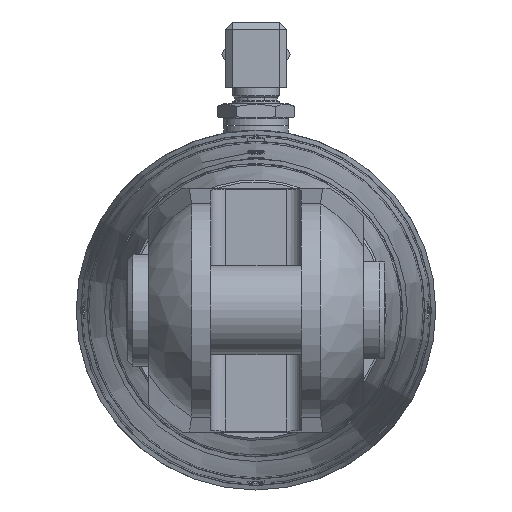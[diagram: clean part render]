
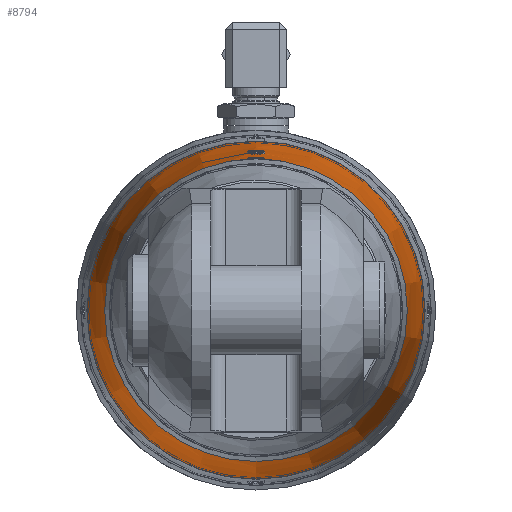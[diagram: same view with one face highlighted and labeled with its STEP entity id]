
A CAD part, left-side view. The second image highlights one B-rep face of the part: STEP entity #8794.
In plain terms, the highlighted conical face has half-angle 5 degrees and reference radius 45.508 mm.
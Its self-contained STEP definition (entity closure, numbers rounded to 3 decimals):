
#52=CONICAL_SURFACE('',#9416,45.508,0.087);
#711=LINE('',#13551,#1291);
#1291=VECTOR('',#10671,45.508);
#2276=FACE_BOUND('',#2953,.T.);
#2440=FACE_OUTER_BOUND('',#2952,.T.);
#2952=EDGE_LOOP('',(#6479,#6480,#6481,#6482,#6483,#6484));
#2953=EDGE_LOOP('',(#6485,#6486));
#3491=CIRCLE('',#9409,43.);
#3492=CIRCLE('',#9410,43.);
#3493=CIRCLE('',#9412,47.972);
#3494=CIRCLE('',#9413,47.972);
#3878=B_SPLINE_CURVE_WITH_KNOTS('',3,(#13236,#13237,#13238,#13239,#13240,
#13241,#13242,#13243,#13244,#13245,#13246,#13247,#13248,#13249,#13250,#13251,
#13252,#13253,#13254,#13255,#13256,#13257,#13258,#13259,#13260,#13261,#13262,
#13263),.UNSPECIFIED.,.F.,.F.,(4,2,2,2,2,2,2,2,2,2,2,2,2,4),(0.,0.094,
0.188,0.282,0.376,0.47,
0.564,0.658,0.752,0.847,
0.942,1.036,1.131,1.2),
 .UNSPECIFIED.);
#3879=B_SPLINE_CURVE_WITH_KNOTS('',3,(#13264,#13265,#13266,#13267,#13268,
#13269,#13270,#13271,#13272,#13273),.UNSPECIFIED.,.F.,.F.,(4,2,2,2,4),(1.2,
1.226,1.32,1.415,1.51),
 .UNSPECIFIED.);
#3999=VERTEX_POINT('',#13234);
#4000=VERTEX_POINT('',#13235);
#4074=VERTEX_POINT('',#13535);
#4075=VERTEX_POINT('',#13536);
#4076=VERTEX_POINT('',#13541);
#4077=VERTEX_POINT('',#13542);
#4872=EDGE_CURVE('',#3999,#4000,#3878,.T.);
#4873=EDGE_CURVE('',#4000,#3999,#3879,.T.);
#4990=EDGE_CURVE('',#4074,#4075,#3491,.T.);
#4992=EDGE_CURVE('',#4075,#4074,#3492,.T.);
#4993=EDGE_CURVE('',#4076,#4077,#3493,.T.);
#4994=EDGE_CURVE('',#4077,#4076,#3494,.T.);
#4998=EDGE_CURVE('',#4077,#4075,#711,.T.);
#6479=ORIENTED_EDGE('',*,*,#4993,.F.);
#6480=ORIENTED_EDGE('',*,*,#4994,.F.);
#6481=ORIENTED_EDGE('',*,*,#4998,.T.);
#6482=ORIENTED_EDGE('',*,*,#4990,.F.);
#6483=ORIENTED_EDGE('',*,*,#4992,.F.);
#6484=ORIENTED_EDGE('',*,*,#4998,.F.);
#6485=ORIENTED_EDGE('',*,*,#4872,.T.);
#6486=ORIENTED_EDGE('',*,*,#4873,.T.);
#8794=ADVANCED_FACE('',(#2440,#2276),#52,.T.);
#9409=AXIS2_PLACEMENT_3D('',#13537,#10653,#10654);
#9410=AXIS2_PLACEMENT_3D('',#13539,#10656,#10657);
#9412=AXIS2_PLACEMENT_3D('',#13543,#10660,#10661);
#9413=AXIS2_PLACEMENT_3D('',#13544,#10662,#10663);
#9416=AXIS2_PLACEMENT_3D('',#13550,#10669,#10670);
#10653=DIRECTION('center_axis',(-1.,0.,0.));
#10654=DIRECTION('ref_axis',(0.,0.,
-1.));
#10656=DIRECTION('center_axis',(-1.,0.,0.));
#10657=DIRECTION('ref_axis',(0.,0.,
-1.));
#10660=DIRECTION('center_axis',(1.,0.,0.));
#10661=DIRECTION('ref_axis',(0.,0.,
-1.));
#10662=DIRECTION('center_axis',(1.,0.,0.));
#10663=DIRECTION('ref_axis',(0.,0.,
-1.));
#10669=DIRECTION('center_axis',(1.,0.,0.));
#10670=DIRECTION('ref_axis',(0.,0.,
1.));
#10671=DIRECTION('',(-0.996,0.,0.087));
#13234=CARTESIAN_POINT('',(-494.512,-2.5,44.555));
#13235=CARTESIAN_POINT('',(-492.103,-0.711,44.83));
#13236=CARTESIAN_POINT('Ctrl Pts',(-494.512,-2.5,
44.555));
#13237=CARTESIAN_POINT('Ctrl Pts',(-494.825,-2.498,
44.527));
#13238=CARTESIAN_POINT('Ctrl Pts',(-495.158,-2.435,44.502));
#13239=CARTESIAN_POINT('Ctrl Pts',(-495.772,-2.178,
44.461));
#13240=CARTESIAN_POINT('Ctrl Pts',(-496.052,-1.985,
44.446));
#13241=CARTESIAN_POINT('Ctrl Pts',(-496.493,-1.541,
44.425));
#13242=CARTESIAN_POINT('Ctrl Pts',(-496.684,-1.261,44.418));
#13243=CARTESIAN_POINT('Ctrl Pts',(-496.938,-0.647,
44.409));
#13244=CARTESIAN_POINT('Ctrl Pts',(-497.,-0.313,44.407));
#13245=CARTESIAN_POINT('Ctrl Pts',(-497.,0.313,44.407));
#13246=CARTESIAN_POINT('Ctrl Pts',(-496.938,0.647,
44.409));
#13247=CARTESIAN_POINT('Ctrl Pts',(-496.684,1.261,44.418));
#13248=CARTESIAN_POINT('Ctrl Pts',(-496.493,1.541,44.425));
#13249=CARTESIAN_POINT('Ctrl Pts',(-496.052,1.985,44.446));
#13250=CARTESIAN_POINT('Ctrl Pts',(-495.772,2.178,44.461));
#13251=CARTESIAN_POINT('Ctrl Pts',(-495.158,2.435,44.502));
#13252=CARTESIAN_POINT('Ctrl Pts',(-494.825,2.498,44.527));
#13253=CARTESIAN_POINT('Ctrl Pts',(-494.197,2.502,44.582));
#13254=CARTESIAN_POINT('Ctrl Pts',(-493.861,2.44,44.615));
#13255=CARTESIAN_POINT('Ctrl Pts',(-493.242,2.186,44.683));
#13256=CARTESIAN_POINT('Ctrl Pts',(-492.96,1.994,44.717));
#13257=CARTESIAN_POINT('Ctrl Pts',(-492.514,1.55,44.773));
#13258=CARTESIAN_POINT('Ctrl Pts',(-492.32,1.269,44.8));
#13259=CARTESIAN_POINT('Ctrl Pts',(-492.063,0.652,
44.835));
#13260=CARTESIAN_POINT('Ctrl Pts',(-492.,0.316,44.845));
#13261=CARTESIAN_POINT('Ctrl Pts',(-492.,-0.232,44.845));
#13262=CARTESIAN_POINT('Ctrl Pts',(-492.033,-0.476,
44.84));
#13263=CARTESIAN_POINT('Ctrl Pts',(-492.103,-0.711,
44.83));
#13264=CARTESIAN_POINT('Ctrl Pts',(-492.103,-0.711,
44.83));
#13265=CARTESIAN_POINT('Ctrl Pts',(-492.128,-0.795,
44.826));
#13266=CARTESIAN_POINT('Ctrl Pts',(-492.158,-0.879,
44.822));
#13267=CARTESIAN_POINT('Ctrl Pts',(-492.32,-1.269,
44.8));
#13268=CARTESIAN_POINT('Ctrl Pts',(-492.514,-1.55,44.773));
#13269=CARTESIAN_POINT('Ctrl Pts',(-492.96,-1.994,44.717));
#13270=CARTESIAN_POINT('Ctrl Pts',(-493.242,-2.186,
44.683));
#13271=CARTESIAN_POINT('Ctrl Pts',(-493.861,-2.44,
44.615));
#13272=CARTESIAN_POINT('Ctrl Pts',(-494.197,-2.502,
44.582));
#13273=CARTESIAN_POINT('Ctrl Pts',(-494.512,-2.5,
44.555));
#13535=CARTESIAN_POINT('',(-513.083,0.,43.));
#13536=CARTESIAN_POINT('',(-513.083,0.,-43.));
#13537=CARTESIAN_POINT('Origin',(-513.083,0.,
0.));
#13539=CARTESIAN_POINT('Origin',(-513.083,0.,
0.));
#13541=CARTESIAN_POINT('',(-456.248,0.,47.972));
#13542=CARTESIAN_POINT('',(-456.248,0.,-47.972));
#13543=CARTESIAN_POINT('Origin',(-456.248,0.,
0.));
#13544=CARTESIAN_POINT('Origin',(-456.248,0.,
0.));
#13550=CARTESIAN_POINT('Origin',(-484.417,0.,
0.));
#13551=CARTESIAN_POINT('',(-484.417,0.,-45.508));
